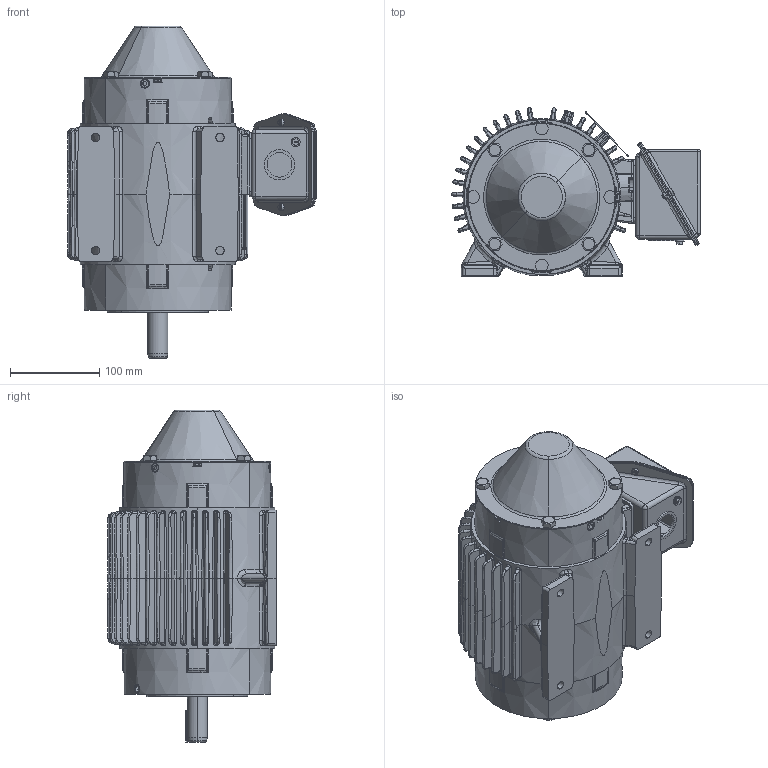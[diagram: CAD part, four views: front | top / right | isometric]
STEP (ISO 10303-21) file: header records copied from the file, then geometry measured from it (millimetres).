
FILE_DESCRIPTION (( 'STEP AP203' ), '1' );
FILE_NAME ('104291-625_Rev02.STEP', '2018-03-15T09:13:15', ( '' ), ( '' ), 'SwSTEP 2.0', 'SolidWorks 2015', '' );
FILE_SCHEMA (( 'CONFIG_CONTROL_DESIGN' ));
Products named in the file (1): 104291-625_Rev02
Bounding box: 279.44 x 188.89 x 372.86 mm (x, y, z)
Volume: 2190626.2 mm3; surface area: 765294.6 mm2
Topology: 33 solids, 33 shells, 3363 faces, 8186 edges, 4870 vertices
Faces by surface type: bspline 1077, cylinder 703, plane 690, cone 374, torus 372, sphere 147
Entity records: 145840 total; most frequent: CARTESIAN_POINT 75893, ORIENTED_EDGE 16170, DIRECTION 12792, EDGE_CURVE 8085, AXIS2_PLACEMENT_3D 5388, VERTEX_POINT 4866, EDGE_LOOP 3537, ADVANCED_FACE 3363
